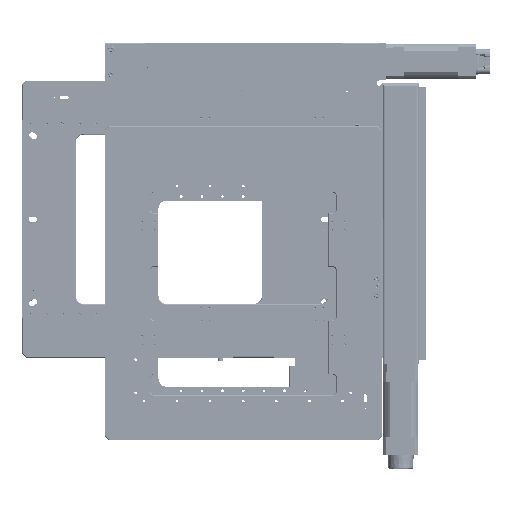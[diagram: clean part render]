
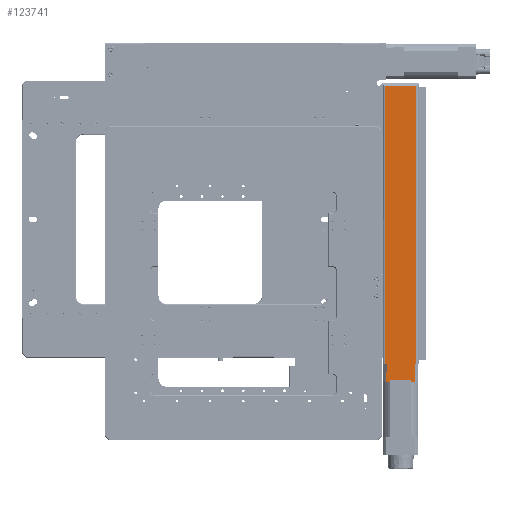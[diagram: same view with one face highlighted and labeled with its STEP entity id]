
A CAD part, top view. The second image highlights one B-rep face of the part: STEP entity #123741.
In plain terms, the highlighted planar face has unit normal (0, 0, 1).
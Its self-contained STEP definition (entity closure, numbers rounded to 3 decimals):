
#17566=FACE_OUTER_BOUND($,#26349,.T.);
#26349=EDGE_LOOP($,(#101186,#101187,#101188,#101189,#101190,#101191,#101192,
#101193,#101194,#101195,#101196,#101197,#101198,#101199,#101200,#101201));
#33624=LINE($,#191752,#43470);
#33625=LINE($,#191756,#43471);
#33628=LINE($,#191771,#43474);
#36247=LINE($,#223097,#46093);
#36251=LINE($,#223109,#46097);
#36296=LINE($,#223346,#46142);
#36297=LINE($,#223347,#46143);
#36301=LINE($,#223353,#46147);
#36302=LINE($,#223356,#46148);
#36307=LINE($,#223371,#46153);
#36308=LINE($,#223373,#46154);
#36315=LINE($,#223386,#46161);
#36403=LINE($,#223744,#46249);
#36407=LINE($,#223751,#46253);
#36416=LINE($,#223768,#46262);
#36441=LINE($,#223946,#46287);
#43470=VECTOR($,#151790,2.);
#43471=VECTOR($,#151795,337.);
#43474=VECTOR($,#151808,337.);
#46093=VECTOR($,#160195,0.755);
#46097=VECTOR($,#160205,0.755);
#46142=VECTOR($,#160366,25.239);
#46143=VECTOR($,#160367,2.25);
#46147=VECTOR($,#160371,2.25);
#46148=VECTOR($,#160374,5.136);
#46153=VECTOR($,#160389,5.136);
#46154=VECTOR($,#160392,12.8);
#46161=VECTOR($,#160407,12.8);
#46249=VECTOR($,#160715,9.);
#46253=VECTOR($,#160721,9.);
#46262=VECTOR($,#160740,2.);
#46287=VECTOR($,#160897,38.);
#53379=VERTEX_POINT($,#191749);
#53380=VERTEX_POINT($,#191751);
#53381=VERTEX_POINT($,#191755);
#53387=VERTEX_POINT($,#191768);
#53388=VERTEX_POINT($,#191770);
#56674=VERTEX_POINT($,#223093);
#56676=VERTEX_POINT($,#223096);
#56679=VERTEX_POINT($,#223103);
#56681=VERTEX_POINT($,#223107);
#56735=VERTEX_POINT($,#223303);
#56749=VERTEX_POINT($,#223340);
#56750=VERTEX_POINT($,#223344);
#56751=VERTEX_POINT($,#223345);
#56754=VERTEX_POINT($,#223355);
#56759=VERTEX_POINT($,#223369);
#56859=VERTEX_POINT($,#223749);
#66697=EDGE_CURVE($,#53380,#53379,#33624,.T.);
#66699=EDGE_CURVE($,#53380,#53381,#33625,.T.);
#66706=EDGE_CURVE($,#53388,#53387,#33628,.T.);
#71577=EDGE_CURVE($,#56676,#56674,#36247,.T.);
#71583=EDGE_CURVE($,#56679,#56681,#36251,.T.);
#71670=EDGE_CURVE($,#56750,#56751,#36296,.T.);
#71671=EDGE_CURVE($,#56749,#56750,#36297,.T.);
#71675=EDGE_CURVE($,#56751,#56735,#36301,.T.);
#71676=EDGE_CURVE($,#56749,#56754,#36302,.T.);
#71684=EDGE_CURVE($,#56759,#56735,#36307,.T.);
#71685=EDGE_CURVE($,#56676,#56759,#36308,.T.);
#71693=EDGE_CURVE($,#56681,#56754,#36315,.T.);
#71836=EDGE_CURVE($,#56679,#53379,#36403,.T.);
#71840=EDGE_CURVE($,#56859,#56674,#36407,.T.);
#71849=EDGE_CURVE($,#56859,#53388,#36416,.T.);
#71913=EDGE_CURVE($,#53381,#53387,#36441,.T.);
#101186=ORIENTED_EDGE($,*,*,#71836,.F.);
#101187=ORIENTED_EDGE($,*,*,#71583,.T.);
#101188=ORIENTED_EDGE($,*,*,#71693,.T.);
#101189=ORIENTED_EDGE($,*,*,#71676,.F.);
#101190=ORIENTED_EDGE($,*,*,#71671,.T.);
#101191=ORIENTED_EDGE($,*,*,#71670,.T.);
#101192=ORIENTED_EDGE($,*,*,#71675,.T.);
#101193=ORIENTED_EDGE($,*,*,#71684,.F.);
#101194=ORIENTED_EDGE($,*,*,#71685,.F.);
#101195=ORIENTED_EDGE($,*,*,#71577,.T.);
#101196=ORIENTED_EDGE($,*,*,#71840,.F.);
#101197=ORIENTED_EDGE($,*,*,#71849,.T.);
#101198=ORIENTED_EDGE($,*,*,#66706,.T.);
#101199=ORIENTED_EDGE($,*,*,#71913,.F.);
#101200=ORIENTED_EDGE($,*,*,#66699,.F.);
#101201=ORIENTED_EDGE($,*,*,#66697,.T.);
#110547=PLANE($,#133900);
#123741=ADVANCED_FACE($,(#17566),#110547,.T.);
#133900=AXIS2_PLACEMENT_3D($,#224952,#161889,#161890);
#151790=DIRECTION($,(1.,0.,0.));
#151795=DIRECTION($,(0.,1.,0.));
#151808=DIRECTION($,(0.,1.,0.));
#160195=DIRECTION($,(-1.,0.,0.));
#160205=DIRECTION($,(-1.,0.,0.));
#160366=DIRECTION($,(1.,0.,0.));
#160367=DIRECTION($,(0.,1.,0.));
#160371=DIRECTION($,(0.,-1.,0.));
#160374=DIRECTION($,(-1.,0.,0.));
#160389=DIRECTION($,(-1.,0.,0.));
#160392=DIRECTION($,(0.,-1.,0.));
#160407=DIRECTION($,(0.,-1.,0.));
#160715=DIRECTION($,(0.,1.,0.));
#160721=DIRECTION($,(0.,-1.,0.));
#160740=DIRECTION($,(1.,0.,0.));
#160897=DIRECTION($,(1.,0.,0.));
#161889=DIRECTION('center_axis',(0.,0.,
1.));
#161890=DIRECTION('ref_axis',(1.,0.,0.));
#191749=CARTESIAN_POINT('',(341.,-748.368,42.));
#191751=CARTESIAN_POINT('',(339.,-748.368,42.));
#191752=CARTESIAN_POINT($,(336.,-748.368,42.));
#191755=CARTESIAN_POINT('',(339.,-411.368,42.));
#191756=CARTESIAN_POINT($,(339.,-748.368,42.));
#191768=CARTESIAN_POINT('',(377.,-411.368,42.));
#191770=CARTESIAN_POINT('',(377.,-748.368,42.));
#191771=CARTESIAN_POINT($,(377.,-578.368,42.));
#223093=CARTESIAN_POINT('',(375.,-757.368,42.));
#223096=CARTESIAN_POINT('',(375.755,-757.368,42.));
#223097=CARTESIAN_POINT($,(375.755,-757.368,42.));
#223103=CARTESIAN_POINT('',(341.,-757.368,42.));
#223107=CARTESIAN_POINT('',(340.245,-757.368,42.));
#223109=CARTESIAN_POINT($,(375.755,-757.368,42.));
#223303=CARTESIAN_POINT('',(370.619,-770.168,42.));
#223340=CARTESIAN_POINT('',(345.381,-770.168,42.));
#223344=CARTESIAN_POINT('',(345.381,-767.918,42.));
#223345=CARTESIAN_POINT('',(370.619,-767.918,42.));
#223346=CARTESIAN_POINT($,(358.,-767.918,42.));
#223347=CARTESIAN_POINT($,(345.381,-770.168,42.));
#223353=CARTESIAN_POINT($,(370.619,-770.168,42.));
#223355=CARTESIAN_POINT('',(340.245,-770.168,42.));
#223356=CARTESIAN_POINT($,(375.755,-770.168,42.));
#223369=CARTESIAN_POINT('',(375.755,-770.168,42.));
#223371=CARTESIAN_POINT($,(375.755,-770.168,42.));
#223373=CARTESIAN_POINT($,(375.755,-757.368,42.));
#223386=CARTESIAN_POINT($,(340.245,-757.368,42.));
#223744=CARTESIAN_POINT($,(341.,-748.368,42.));
#223749=CARTESIAN_POINT('',(375.,-748.368,42.));
#223751=CARTESIAN_POINT($,(375.,-748.368,42.));
#223768=CARTESIAN_POINT($,(336.,-748.368,42.));
#223946=CARTESIAN_POINT($,(369.,-411.368,42.));
#224952=CARTESIAN_POINT('Origin',(336.,-748.368,42.));
